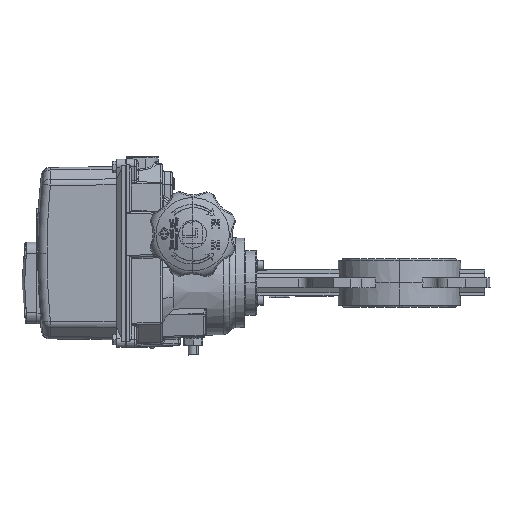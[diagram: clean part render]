
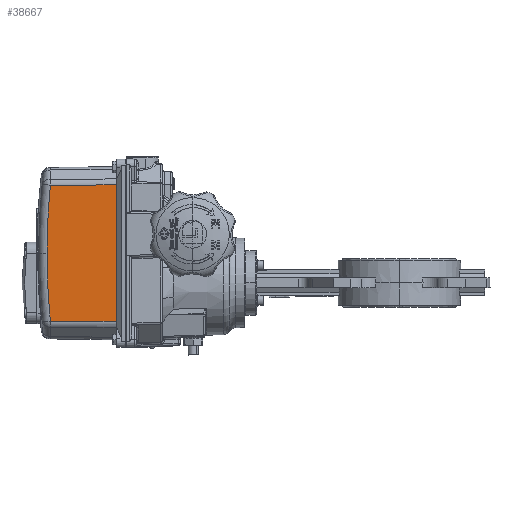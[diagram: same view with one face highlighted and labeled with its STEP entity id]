
A CAD part, left-side view. The second image highlights one B-rep face of the part: STEP entity #38667.
In plain terms, the highlighted planar face has unit normal (-1, 0.013, 0).
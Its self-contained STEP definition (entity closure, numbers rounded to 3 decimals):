
#1885 = LINE ( 'NONE', #34142, #41023 ) ;
#4152 = DIRECTION ( 'NONE',  ( -1., 0.013, 0. ) ) ;
#5521 = CARTESIAN_POINT ( 'NONE',  ( -57.413, 275.72, -39.088 ) ) ;
#6667 = CARTESIAN_POINT ( 'NONE',  ( -56.388, 352.051, -38.663 ) ) ;
#8143 = EDGE_LOOP ( 'NONE', ( #36814, #32698, #44865, #87654, #37644 ) ) ;
#12823 = AXIS2_PLACEMENT_3D ( 'NONE', #27300, #72232, #90296 ) ;
#14563 = DIRECTION ( 'NONE',  ( -0.013, -1., -0.006 ) ) ;
#15349 = CIRCLE ( 'NONE', #17011, 688.92 ) ;
#17011 = AXIS2_PLACEMENT_3D ( 'NONE', #23308, #113002, #22540 ) ;
#19753 = EDGE_CURVE ( 'NONE', #40419, #25135, #67224, .T. ) ;
#20784 = CARTESIAN_POINT ( 'NONE',  ( -57.279, 285.7, 98.858 ) ) ;
#22540 = DIRECTION ( 'NONE',  ( 0.013, 1., 0. ) ) ;
#23308 = CARTESIAN_POINT ( 'NONE',  ( -65.589, -333.385, 29.913 ) ) ;
#25135 = VERTEX_POINT ( 'NONE', #93377 ) ;
#26845 = CARTESIAN_POINT ( 'NONE',  ( -57.411, 275.826, 98.912 ) ) ;
#27300 = CARTESIAN_POINT ( 'NONE',  ( -65.589, -333.385, 29.913 ) ) ;
#32698 = ORIENTED_EDGE ( 'NONE', *, *, #97326, .T. ) ;
#34142 = CARTESIAN_POINT ( 'NONE',  ( -57.279, 285.7, -41.573 ) ) ;
#35525 = EDGE_CURVE ( 'NONE', #105333, #114493, #114919, .T. ) ;
#36814 = ORIENTED_EDGE ( 'NONE', *, *, #19753, .T. ) ;
#37644 = ORIENTED_EDGE ( 'NONE', *, *, #75003, .T. ) ;
#38667 = ADVANCED_FACE ( 'NONE', ( #83636 ), #110735, .T. ) ;
#40419 = VERTEX_POINT ( 'NONE', #6667 ) ;
#41023 = VECTOR ( 'NONE', #86947, 1000. ) ;
#44865 = ORIENTED_EDGE ( 'NONE', *, *, #35525, .T. ) ;
#54171 = DIRECTION ( 'NONE',  ( 0.013, 1., -0.006 ) ) ;
#67224 = LINE ( 'NONE', #5521, #116306 ) ;
#68235 = EDGE_CURVE ( 'NONE', #114493, #101786, #15349, .T. ) ;
#72232 = DIRECTION ( 'NONE',  ( -1., 0.013, 0. ) ) ;
#72650 = VECTOR ( 'NONE', #54171, 1000. ) ;
#75003 = EDGE_CURVE ( 'NONE', #101786, #40419, #100251, .T. ) ;
#83636 = FACE_OUTER_BOUND ( 'NONE', #8143, .T. ) ;
#84444 = DIRECTION ( 'NONE',  ( 0.013, 1., 0. ) ) ;
#85214 = CARTESIAN_POINT ( 'NONE',  ( -57.412, 275.734, -41.573 ) ) ;
#86947 = DIRECTION ( 'NONE',  ( 0., 0., 1. ) ) ;
#87654 = ORIENTED_EDGE ( 'NONE', *, *, #68235, .T. ) ;
#90296 = DIRECTION ( 'NONE',  ( 0.013, 1., 0. ) ) ;
#93377 = CARTESIAN_POINT ( 'NONE',  ( -57.279, 285.7, -39.032 ) ) ;
#95551 = AXIS2_PLACEMENT_3D ( 'NONE', #85214, #4152, #84444 ) ;
#97326 = EDGE_CURVE ( 'NONE', #25135, #105333, #1885, .T. ) ;
#100251 = CIRCLE ( 'NONE', #12823, 688.92 ) ;
#101180 = CARTESIAN_POINT ( 'NONE',  ( -56.342, 355.473, 29.913 ) ) ;
#101265 = CARTESIAN_POINT ( 'NONE',  ( -56.388, 352.051, 98.489 ) ) ;
#101786 = VERTEX_POINT ( 'NONE', #101180 ) ;
#105333 = VERTEX_POINT ( 'NONE', #20784 ) ;
#110735 = PLANE ( 'NONE',  #95551 ) ;
#113002 = DIRECTION ( 'NONE',  ( -1., 0.013, 0. ) ) ;
#114493 = VERTEX_POINT ( 'NONE', #101265 ) ;
#114919 = LINE ( 'NONE', #26845, #72650 ) ;
#116306 = VECTOR ( 'NONE', #14563, 1000. ) ;
